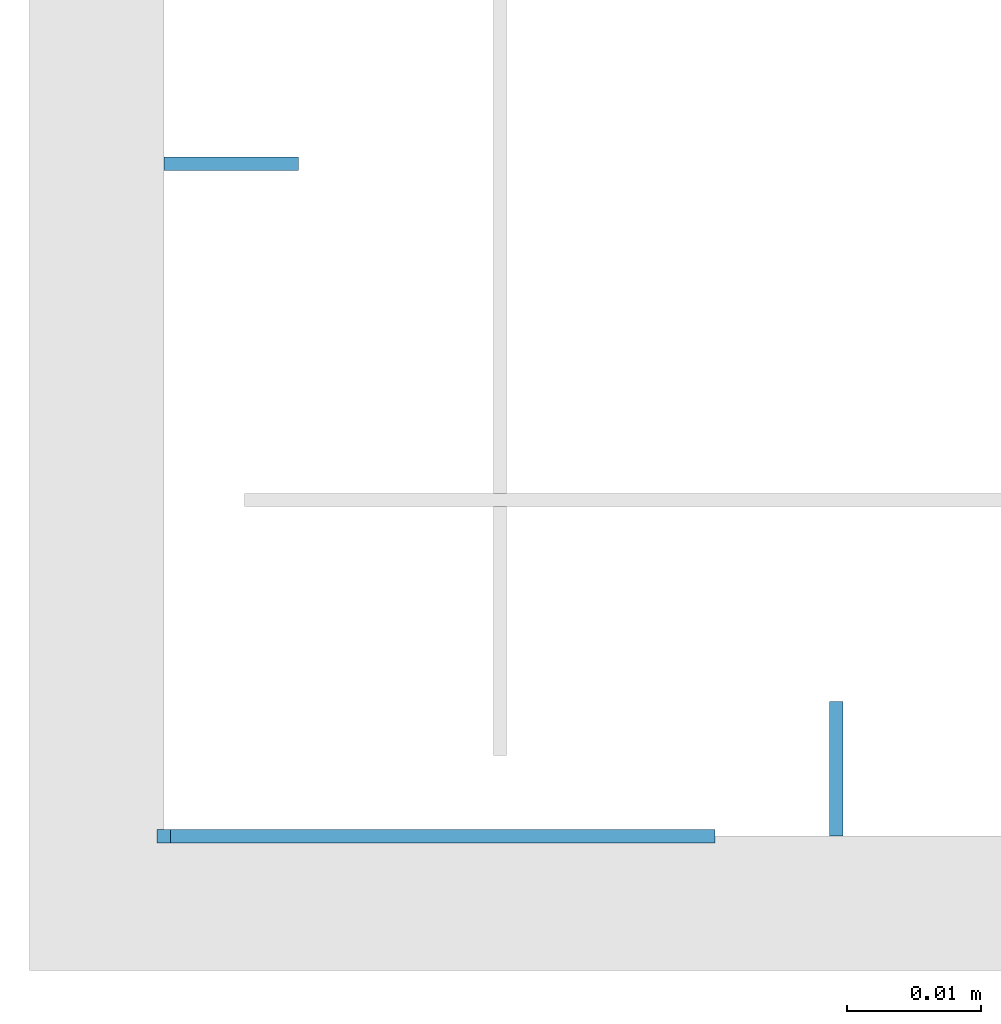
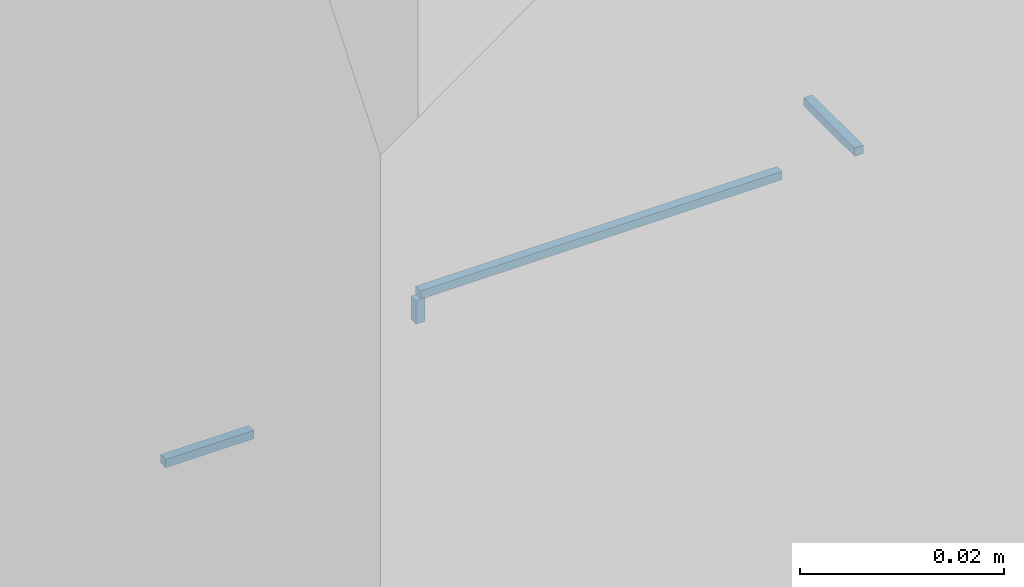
# One storey, part 55 of 186: 4 beams.
"""IFC4X3_ADD2 building model written with IfcOpenShell, lengths in millimetres."""

from ifc_helpers import new_model, si_unit, direction, frame, frame_2d, origin_with_axes, place, context, subcontext, project, spatial, rectangle, extrude, material, element, save


model = new_model("IFC4X3_ADD2")

# Units and contexts
model_context = context("Model", 3, precision=1e-05, world=origin_with_axes(), true_north=direction((0.0, 1.0)))
body_context = subcontext(model_context, "Body", "Model", "MODEL_VIEW")
ifc_project = project(units=[si_unit("LENGTHUNIT", "METRE", prefix="MILLI"), si_unit("AREAUNIT", "SQUARE_METRE"), si_unit("VOLUMEUNIT", "CUBIC_METRE"), si_unit("PLANEANGLEUNIT", "RADIAN"), si_unit("TIMEUNIT", "SECOND"), si_unit("MASSUNIT", "GRAM")], contexts=[model_context])

# Site, building, storey
site_placement = place(None, origin_with_axes())
site = spatial("IfcSite", under=ifc_project, at=site_placement, Name="Site", CompositionType="ELEMENT")
building_placement = place(site_placement, origin_with_axes())
building = spatial("IfcBuilding", under=site, at=building_placement, Name="IFC Building Story")
storey_placement = place(building_placement, frame((0.0, 0.0, 4370.0), z_axis=(0.0, 0.0, 1.0), x_axis=(1.0, 0.0, 0.0)))
storey = spatial("IfcBuildingStorey", under=building, at=storey_placement, Name="ETAGE 10 (1)", Elevation=4370.0)

# Beams
ifc_material = material(Name="STEEL/Accessory_invisible")
beam_1_placement = place(storey_placement, frame((4819.18934822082, 11.9999637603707, 4020.0), z_axis=(-1.0, 0.0, 0.0), x_axis=(0.0, -1.0, 0.0)))
element("IfcBeam", 1, at=beam_1_placement, inside=storey, material=ifc_material, Name="MP12", ObjectType="1*1 3", context=body_context, shape_type="SweptSolid", body=[
    extrude(rectangle(XDim=0.9999999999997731, YDim=0.9999999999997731, at=frame_2d((0.0, 5.95523630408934e-12), x_axis=(1.0, 0.0))), origin_with_axes(), (0.0, 0.0, 1.0), 41.0),
])
beam_2_placement = place(storey_placement, frame((4788.189348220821, 61.9999637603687, 3969.5), z_axis=(-1.0, 0.0, 0.0), x_axis=(0.0, 1.0, 0.0)))
element("IfcBeam", 2, at=beam_2_placement, inside=storey, material=ifc_material, Name="MP21", ObjectType="1*1 3", context=body_context, shape_type="SweptSolid", body=[
    extrude(rectangle(XDim=0.9999999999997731, YDim=0.9999999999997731, at=frame_2d((0.0, 5.95523630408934e-12), x_axis=(1.0, 0.0))), origin_with_axes(), (0.0, 0.0, 1.0), 10.0),
])
beam_3_placement = place(storey_placement, frame((4827.68934822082, 16.9999637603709, 4019.5), z_axis=(1.0, 0.0, 0.0), x_axis=(0.0, 0.0, -1.0)))
element("IfcBeam", 3, at=beam_3_placement, inside=storey, material=ifc_material, Name="MP21", ObjectType="1*1 9", context=body_context, shape_type="SweptSolid", body=[
    extrude(rectangle(XDim=0.9999999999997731, YDim=10.0, at=frame_2d((0.0, 5.95523630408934e-12), x_axis=(1.0, 0.0))), origin_with_axes(), (0.0, 0.0, 1.0), 1.0),
])
beam_4_placement = place(storey_placement, frame((4778.68934822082, 11.9999637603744, 4018.09747859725), z_axis=(-1.0, 0.0, 0.0), x_axis=(0.0, 0.0, 1.0)))
element("IfcBeam", 4, at=beam_4_placement, inside=storey, material=ifc_material, Name="ZW1", ObjectType="1*1 8", context=body_context, shape_type="SweptSolid", body=[
    extrude(rectangle(XDim=2.79999999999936, YDim=1.0, at=frame_2d((0.0, 5.95523630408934e-12), x_axis=(1.0, 0.0))), origin_with_axes(), (0.0, 0.0, 1.0), 1.0),
])

save(model, "model.ifc")
